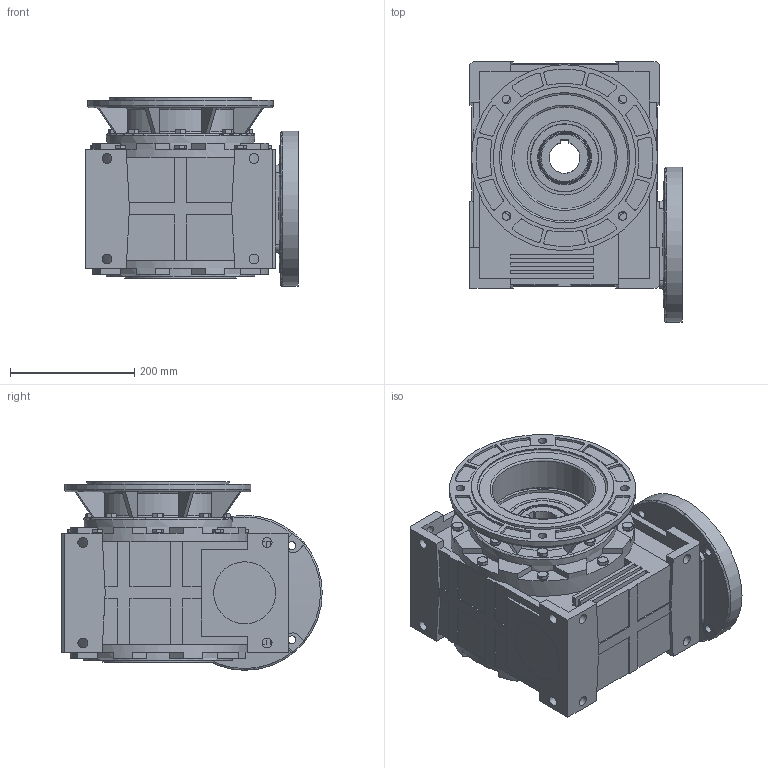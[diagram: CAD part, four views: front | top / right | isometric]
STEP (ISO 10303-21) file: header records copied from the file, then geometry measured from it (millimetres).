
FILE_DESCRIPTION (( 'STEP AP203' ), '1' );
FILE_NAME ('MR-140_100-112B5_K300_2_3D.STEP', '2018-11-13T12:00:43', ( 'Biuro' ), ( 'Microsoft' ), 'SwSTEP 2.0', 'SolidWorks 2013', '' );
FILE_SCHEMA (( 'CONFIG_CONTROL_DESIGN' ));
Length unit declared in the file: millimetre
Products named in the file (1): MR-140_100-112B5_K300_2_3D
Bounding box: 342 x 420 x 304 mm (x, y, z)
Volume: 21919692.5 mm3; surface area: 1075579.8 mm2
Topology: 1 solids, 29 shells, 1249 faces, 3113 edges, 1994 vertices
Faces by surface type: plane 751, cylinder 292, cone 139, torus 66, bspline 1
Full cylindrical faces by diameter (mm): 10 x24, 10.5 x8, 11 x8, 13 x4, 14 x4, 16 x32, 18 x4, 24 x4, 28 x1, 36 x1, 64.95 x1, 65 x2, 70.861 x1, 86 x1, 90 x2, 100 x1, 110 x2, 120 x2, 164 x1, 170 x2, 176 x1, 180 x2, 210 x1, 230 x1, 240 x2, 250 x1, 295 x2, 300 x1
Entity records: 37228 total; most frequent: CARTESIAN_POINT 8455, DIRECTION 6006, ORIENTED_EDGE 5636, EDGE_CURVE 2818, AXIS2_PLACEMENT_3D 2231, VERTEX_POINT 1896, EDGE_LOOP 1598, VECTOR 1544
